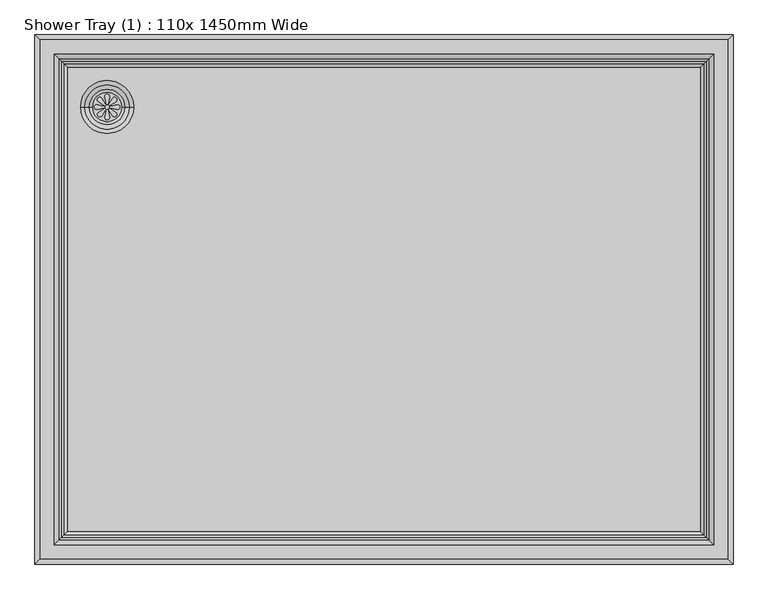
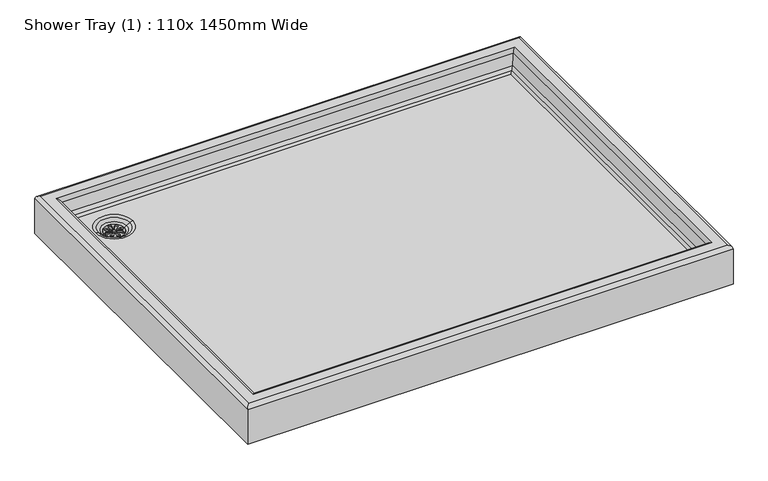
"""IFC4 building model written with IfcOpenShell, lengths in millimetres: flow terminal geometry, Shower Tray (1) : 110x 1450mm Wide."""

from ifc_helpers import new_model, si_unit, point, frame, frame_2d, origin, place, context, project, spatial, polyline, circle_curve, ellipse_curve, trimmed, segment, composite_curve, outline, extrude, source, transform, mapped, element, save
from ifc_brep_helpers import plane_surface, cylinder_surface, revolved_surface, advanced_brep


def shower_tray_1_110x_1450mm_wide_fd7da13c(model_context):
    return source(origin(), model_context, "Body", "SolidModel", [
        extrude(outline(composite_curve([segment(trimmed(circle_curve(frame_2d((-575.0, 400.0)), 30.0), [point((-605.0, 400.0))], [point((-545.0, 400.0))], False, "CARTESIAN"), True, "CONTINUOUS"), segment(trimmed(circle_curve(frame_2d((-575.0, 400.0)), 30.0), [point((-545.0, 400.0))], [point((-605.0, 400.0))], False, "CARTESIAN"), True, "CONTINUOUS")], self_intersect=False), holes=[composite_curve([segment(polyline([(-573.0437984, 407.2242832), (-570.0173347, 421.5301417)]), True, "CONTINUOUS"), segment(trimmed(circle_curve(frame_2d((-575.0, 421.5301417)), 4.9826653), [point((-570.0173347, 421.5301417))], [point((-579.9826653, 421.5301417))], True, "CARTESIAN"), True, "CONTINUOUS"), segment(polyline([(-579.9826653, 421.5301417), (-577.1435586, 407.2242832)]), True, "CONTINUOUS"), segment(trimmed(circle_curve(frame_2d((-575.0936785, 407.2242832)), 2.0498801), [point((-577.1435586, 407.2242832))], [point((-573.0437984, 407.2242832))], True, "CARTESIAN"), True, "CONTINUOUS")], self_intersect=False), composite_curve([segment(trimmed(circle_curve(frame_2d((-575.0936785, 392.7757168)), 2.0498801), [point((-573.0437984, 392.7757168))], [point((-577.1435586, 392.7757168))], True, "CARTESIAN"), True, "CONTINUOUS"), segment(polyline([(-577.1435586, 392.7757168), (-579.9826653, 378.4698583)]), True, "CONTINUOUS"), segment(trimmed(circle_curve(frame_2d((-575.0, 378.4698583)), 4.9826653), [point((-579.9826653, 378.4698583))], [point((-570.0173347, 378.4698583))], True, "CARTESIAN"), True, "CONTINUOUS"), segment(polyline([(-570.0173347, 378.4698583), (-573.0437984, 392.7757168)]), True, "CONTINUOUS")], self_intersect=False), composite_curve([segment(polyline([(-582.2242832, 401.9562016), (-596.5301417, 404.9826653)]), True, "CONTINUOUS"), segment(trimmed(circle_curve(frame_2d((-596.5301417, 400.0)), 4.9826653), [point((-596.5301417, 404.9826653))], [point((-596.5301417, 395.0173347))], True, "CARTESIAN"), True, "CONTINUOUS"), segment(polyline([(-596.5301417, 395.0173347), (-582.2242832, 397.8564414)]), True, "CONTINUOUS"), segment(trimmed(circle_curve(frame_2d((-582.2242832, 399.9063215)), 2.0498801), [point((-582.2242832, 397.8564414))], [point((-582.2242832, 401.9562016))], True, "CARTESIAN"), True, "CONTINUOUS")], self_intersect=False), composite_curve([segment(trimmed(circle_curve(frame_2d((-567.7757168, 399.9063215)), 2.0498801), [point((-567.7757168, 401.9562016))], [point((-567.7757168, 397.8564414))], True, "CARTESIAN"), True, "CONTINUOUS"), segment(polyline([(-567.7757168, 397.8564414), (-553.4698583, 395.0173347)]), True, "CONTINUOUS"), segment(trimmed(circle_curve(frame_2d((-553.4698583, 400.0)), 4.9826653), [point((-553.4698583, 395.0173347))], [point((-553.4698583, 404.9826653))], True, "CARTESIAN"), True, "CONTINUOUS"), segment(polyline([(-553.4698583, 404.9826653), (-567.7757168, 401.9562016)]), True, "CONTINUOUS")], self_intersect=False), composite_curve([segment(polyline([(-578.7250963, 406.4915831), (-586.7008327, 418.7473856)]), True, "CONTINUOUS"), segment(trimmed(circle_curve(frame_2d((-590.2241092, 415.2241092)), 4.9826653), [point((-586.7008327, 418.7473856))], [point((-593.7473856, 411.7008327))], True, "CARTESIAN"), True, "CONTINUOUS"), segment(polyline([(-593.7473856, 411.7008327), (-581.6240645, 403.5926149)]), True, "CONTINUOUS"), segment(trimmed(circle_curve(frame_2d((-580.1745804, 405.042099)), 2.0498801), [point((-581.6240645, 403.5926149))], [point((-578.7250963, 406.4915831))], True, "CARTESIAN"), True, "CONTINUOUS")], self_intersect=False), composite_curve([segment(trimmed(circle_curve(frame_2d((-569.957901, 394.8254196)), 2.0498801), [point((-568.5084169, 396.2749037))], [point((-571.4073851, 393.3759355))], True, "CARTESIAN"), True, "CONTINUOUS"), segment(polyline([(-571.4073851, 393.3759355), (-563.2991673, 381.2526144)]), True, "CONTINUOUS"), segment(trimmed(circle_curve(frame_2d((-559.7758908, 384.7758908)), 4.9826653), [point((-563.2991673, 381.2526144))], [point((-556.2526144, 388.2991673))], True, "CARTESIAN"), True, "CONTINUOUS"), segment(polyline([(-556.2526144, 388.2991673), (-568.5084169, 396.2749037)]), True, "CONTINUOUS")], self_intersect=False), composite_curve([segment(polyline([(-581.4915831, 396.2749037), (-593.7473856, 388.2991673)]), True, "CONTINUOUS"), segment(trimmed(circle_curve(frame_2d((-590.2241092, 384.7758908)), 4.9826653), [point((-593.7473856, 388.2991673))], [point((-586.7008327, 381.2526144))], True, "CARTESIAN"), True, "CONTINUOUS"), segment(polyline([(-586.7008327, 381.2526144), (-578.5926149, 393.3759355)]), True, "CONTINUOUS"), segment(trimmed(circle_curve(frame_2d((-580.042099, 394.8254196)), 2.0498801), [point((-578.5926149, 393.3759355))], [point((-581.4915831, 396.2749037))], True, "CARTESIAN"), True, "CONTINUOUS")], self_intersect=False), composite_curve([segment(trimmed(circle_curve(frame_2d((-569.8254196, 405.042099)), 2.0498801), [point((-571.2749037, 406.4915831))], [point((-568.3759355, 403.5926149))], True, "CARTESIAN"), True, "CONTINUOUS"), segment(polyline([(-568.3759355, 403.5926149), (-556.2526144, 411.7008327)]), True, "CONTINUOUS"), segment(trimmed(circle_curve(frame_2d((-559.7758908, 415.2241092)), 4.9826653), [point((-556.2526144, 411.7008327))], [point((-563.2991673, 418.7473856))], True, "CARTESIAN"), True, "CONTINUOUS"), segment(polyline([(-563.2991673, 418.7473856), (-571.2749037, 406.4915831)]), True, "CONTINUOUS")], self_intersect=False)]), frame((0.0, 0.0, 43.429774), z_axis=(0.0, 0.0, 1.0), x_axis=(1.0, 0.0, 0.0)), (0.0, 0.0, 1.0), 3.0),
        advanced_brep(
        [(725.0, 550.0, 0.0), (725.0, 550.0, 110.0), (725.0, -550.0, 110.0), (725.0, -550.0, 0.0), (663.5950747, 488.5950747, 66.1486916), (657.446383, 482.446383, 60.0), (657.446383, -482.446383, 60.0), (663.5950747, -488.5950747, 66.1486916), (669.1490941, -494.1490941, 76.8178637), (669.1490941, 494.1490941, 76.8178637), (675.0, -500.0, 110.0), (675.0, 500.0, 110.0), (685.0, -510.0, 120.0), (685.0, 510.0, 120.0), (715.0, 540.0, 120.0), (715.0, -540.0, 120.0), (-725.0, -550.0, 110.0), (-725.0, -550.0, 0.0), (-657.446383, -482.446383, 60.0), (-663.5950747, -488.5950747, 66.1486916), (-669.1490941, -494.1490941, 76.8178637), (-675.0, -500.0, 110.0), (-685.0, -510.0, 120.0), (-715.0, -540.0, 120.0), (-725.0, 550.0, 110.0), (-725.0, 550.0, 0.0), (-657.446383, 482.446383, 60.0), (-663.5950747, 488.5950747, 66.1486916), (-669.1490941, 494.1490941, 76.8178637), (-675.0, 500.0, 110.0), (-685.0, 510.0, 120.0), (-715.0, 540.0, 120.0), (-605.0, 400.0, 0.0), (-545.0, 400.0, 0.0), (-630.0, 400.0, 60.0), (-520.0, 400.0, 60.0), (-545.0, 400.0, 46.429774), (-605.0, 400.0, 46.429774), (-538.3333333, 400.0, 50.0), (-611.6666667, 400.0, 50.0), (-529.0, 400.0, 57.0), (-621.0, 400.0, 57.0)],
        [
            (0, 1),
            (1, 2),
            (2, 3),
            (3, 0),
            (4, 5),
            (5, 6),
            (6, 7),
            (7, 4),
            (7, 8, ellipse_curve(frame((649.452939, -474.452939, 80.2908273), z_axis=(-0.7071067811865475, -0.7071067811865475, 0.0), x_axis=(0.7071067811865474, -0.7071067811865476, 0.0)), 28.2842712, 20.0)),
            (8, 9),
            (9, 4, ellipse_curve(frame((649.452939, 474.452939, 80.2908273), z_axis=(-0.7071067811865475, 0.7071067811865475, 0.0), x_axis=(-0.7071067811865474, -0.7071067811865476, 0.0)), 28.2842712, 20.0)),
            (8, 10),
            (10, 11),
            (11, 9),
            (10, 12, ellipse_curve(frame((685.0, -510.0, 110.0), z_axis=(0.7071067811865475, 0.7071067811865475, 0.0), x_axis=(-0.7071067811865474, 0.7071067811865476, 0.0)), 14.1421356, 10.0)),
            (12, 13),
            (13, 11, ellipse_curve(frame((685.0, 510.0, 110.0), z_axis=(0.7071067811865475, -0.7071067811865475, 0.0), x_axis=(0.7071067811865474, 0.7071067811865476, 0.0)), 14.1421356, 10.0)),
            (1, 14, ellipse_curve(frame((715.0, 540.0, 110.0), z_axis=(0.7071067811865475, -0.7071067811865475, 0.0), x_axis=(0.7071067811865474, 0.7071067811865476, 0.0)), 14.1421356, 10.0)),
            (14, 15),
            (15, 2, ellipse_curve(frame((715.0, -540.0, 110.0), z_axis=(0.7071067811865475, 0.7071067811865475, 0.0), x_axis=(-0.7071067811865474, 0.7071067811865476, 0.0)), 14.1421356, 10.0)),
            (2, 16),
            (16, 17),
            (17, 3),
            (6, 18),
            (18, 19),
            (19, 7),
            (19, 20, ellipse_curve(frame((-649.452939, -474.452939, 80.2908273), z_axis=(-0.7071067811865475, 0.7071067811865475, 0.0), x_axis=(-0.7071067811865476, -0.7071067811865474, 0.0)), 28.2842712, 20.0)),
            (20, 8),
            (20, 21),
            (21, 10),
            (21, 22, ellipse_curve(frame((-685.0, -510.0, 110.0), z_axis=(0.7071067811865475, -0.7071067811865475, 0.0), x_axis=(0.7071067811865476, 0.7071067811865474, 0.0)), 14.1421356, 10.0)),
            (22, 12),
            (15, 23),
            (23, 16, ellipse_curve(frame((-715.0, -540.0, 110.0), z_axis=(0.7071067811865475, -0.7071067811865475, 0.0), x_axis=(0.7071067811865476, 0.7071067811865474, 0.0)), 14.1421356, 10.0)),
            (16, 24),
            (24, 25),
            (25, 17),
            (18, 26),
            (26, 27),
            (27, 19),
            (27, 28, ellipse_curve(frame((-649.452939, 474.452939, 80.2908273), z_axis=(0.7071067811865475, 0.7071067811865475, 0.0), x_axis=(-0.7071067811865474, 0.7071067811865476, 0.0)), 28.2842712, 20.0)),
            (28, 20),
            (28, 29),
            (29, 21),
            (29, 30, ellipse_curve(frame((-685.0, 510.0, 110.0), z_axis=(-0.7071067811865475, -0.7071067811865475, 0.0), x_axis=(0.7071067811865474, -0.7071067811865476, 0.0)), 14.1421356, 10.0)),
            (30, 22),
            (23, 31),
            (31, 24, ellipse_curve(frame((-715.0, 540.0, 110.0), z_axis=(-0.7071067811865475, -0.7071067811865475, 0.0), x_axis=(0.7071067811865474, -0.7071067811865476, 0.0)), 14.1421356, 10.0)),
            (0, 25),
            (24, 1),
            (32, 33, circle_curve(frame((-575.0, 400.0, 0.0), z_axis=(0.0, 0.0, 1.0), x_axis=(1.0, 0.0, 0.0)), 30.0)),
            (33, 32, circle_curve(frame((-575.0, 400.0, 0.0), z_axis=(0.0, 0.0, 1.0), x_axis=(1.0, 0.0, 0.0)), 30.0)),
            (4, 27),
            (26, 5),
            (9, 28),
            (11, 29),
            (13, 30),
            (14, 31),
            (34, 35, circle_curve(frame((-575.0, 400.0, 60.0), z_axis=(0.0, 0.0, -1.0), x_axis=(1.0, 0.0, 0.0)), 55.0)),
            (35, 34, circle_curve(frame((-575.0, 400.0, 60.0), z_axis=(0.0, 0.0, -1.0), x_axis=(1.0, 0.0, 0.0)), 55.0)),
            (33, 36),
            (36, 37, circle_curve(frame((-575.0, 400.0, 46.429774), z_axis=(0.0, 0.0, 1.0), x_axis=(1.0, 0.0, 0.0)), 30.0)),
            (37, 32),
            (37, 36, circle_curve(frame((-575.0, 400.0, 46.429774), z_axis=(0.0, 0.0, 1.0), x_axis=(1.0, 0.0, 0.0)), 30.0)),
            (38, 39, circle_curve(frame((-575.0, 400.0, 50.0), z_axis=(0.0, 0.0, 1.0), x_axis=(1.0, 0.0, 0.0)), 36.6666667)),
            (39, 37, circle_curve(frame((-596.6666667, 400.0, 70.0), z_axis=(0.0, -1.0, 0.0), x_axis=(-1.0, 0.0, 0.0)), 25.0)),
            (36, 38, circle_curve(frame((-553.3333333, 400.0, 70.0), z_axis=(0.0, -1.0, 0.0), x_axis=(1.0, 0.0, 0.0)), 25.0)),
            (39, 38, circle_curve(frame((-575.0, 400.0, 50.0), z_axis=(0.0, 0.0, 1.0), x_axis=(1.0, 0.0, 0.0)), 36.6666667)),
            (38, 40),
            (40, 41, circle_curve(frame((-575.0, 400.0, 57.0), z_axis=(0.0, 0.0, 1.0), x_axis=(1.0, 0.0, 0.0)), 46.0)),
            (41, 39),
            (41, 40, circle_curve(frame((-575.0, 400.0, 57.0), z_axis=(0.0, 0.0, 1.0), x_axis=(1.0, 0.0, 0.0)), 46.0)),
            (40, 35, circle_curve(frame((-520.0, 400.0, 45.0), z_axis=(0.0, 1.0, 0.0), x_axis=(1.0, 0.0, 0.0)), 15.0)),
            (34, 41, circle_curve(frame((-630.0, 400.0, 45.0), z_axis=(0.0, 1.0, 0.0), x_axis=(-1.0, 0.0, 0.0)), 15.0)),
        ],
        [
            plane_surface(frame((725.0, 550.0, 110.0), z_axis=(1.0, 0.0, 0.0), x_axis=(0.0, -1.0, 0.0))),
            plane_surface(frame((657.446383, 482.446383, 60.0), z_axis=(-0.7071067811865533, 0.0, 0.7071067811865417), x_axis=(0.0, -1.0, 0.0))),
            revolved_surface(polyline([(669.452939, -494.45293896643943, 80.2908273), (669.452939, 494.4529389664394, 80.2908273)]), (649.452939, 550.0, 80.2908273), (0.0, -1.0, 0.0)),
            plane_surface(frame((669.1490941, 494.1490941, 76.8178637), z_axis=(-0.9848077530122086, 0.0, 0.17364817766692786), x_axis=(0.0, -1.0, 0.0))),
            cylinder_surface(frame((685.0, 550.0, 110.0), z_axis=(0.0, 1.0, 0.0), x_axis=(1.0, 0.0, 0.0)), 10.0),
            cylinder_surface(frame((715.0, 550.0, 110.0), z_axis=(0.0, 1.0, 0.0), x_axis=(1.0, 0.0, 0.0)), 10.0),
            plane_surface(frame((725.0, -550.0, 110.0), z_axis=(0.0, -1.0, 0.0), x_axis=(-1.0, 0.0, 0.0))),
            plane_surface(frame((657.446383, -482.446383, 60.0), z_axis=(0.0, 0.7071067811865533, 0.7071067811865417), x_axis=(-1.0, 0.0, 0.0))),
            revolved_surface(polyline([(-669.4529389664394, -494.452939, 80.2908273), (669.4529389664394, -494.452939, 80.2908273)]), (725.0, -474.452939, 80.2908273), (-1.0, 0.0, 0.0)),
            plane_surface(frame((669.1490941, -494.1490941, 76.8178637), z_axis=(0.0, 0.9848077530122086, 0.17364817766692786), x_axis=(-1.0, 0.0, 0.0))),
            cylinder_surface(frame((725.0, -510.0, 110.0), z_axis=(1.0, 0.0, 0.0), x_axis=(0.0, -1.0, 0.0)), 10.0),
            cylinder_surface(frame((725.0, -540.0, 110.0), z_axis=(1.0, 0.0, 0.0), x_axis=(0.0, -1.0, 0.0)), 10.0),
            plane_surface(frame((-725.0, -550.0, 110.0), z_axis=(-1.0, 0.0, 0.0), x_axis=(0.0, 1.0, 0.0))),
            plane_surface(frame((-657.446383, -482.446383, 60.0), z_axis=(0.7071067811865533, 0.0, 0.7071067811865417), x_axis=(0.0, 1.0, 0.0))),
            revolved_surface(polyline([(-669.452939, 494.45293896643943, 80.2908273), (-669.452939, -494.4529389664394, 80.2908273)]), (-649.452939, -550.0, 80.2908273), (0.0, 1.0, 0.0)),
            plane_surface(frame((-669.1490941, -494.1490941, 76.8178637), z_axis=(0.9848077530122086, 0.0, 0.17364817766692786), x_axis=(0.0, 1.0, 0.0))),
            cylinder_surface(frame((-685.0, -550.0, 110.0), z_axis=(0.0, -1.0, 0.0), x_axis=(-1.0, 0.0, 0.0)), 10.0),
            cylinder_surface(frame((-715.0, -550.0, 110.0), z_axis=(0.0, -1.0, 0.0), x_axis=(-1.0, 0.0, 0.0)), 10.0),
            plane_surface(frame((-725.0, 550.0, 110.0), z_axis=(0.0, 1.0, 0.0), x_axis=(1.0, 0.0, 0.0))),
            plane_surface(frame((-725.0, 550.0, 0.0), z_axis=(0.0, 0.0, -1.0), x_axis=(1.0, 0.0, 0.0))),
            plane_surface(frame((-657.446383, 482.446383, 60.0), z_axis=(0.0, -0.7071067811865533, 0.7071067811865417), x_axis=(1.0, 0.0, 0.0))),
            revolved_surface(polyline([(669.4529389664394, 494.452939, 80.2908273), (-669.4529389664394, 494.452939, 80.2908273)]), (-725.0, 474.452939, 80.2908273), (1.0, 0.0, 0.0)),
            plane_surface(frame((-669.1490941, 494.1490941, 76.8178637), z_axis=(0.0, -0.9848077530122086, 0.17364817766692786), x_axis=(1.0, 0.0, 0.0))),
            cylinder_surface(frame((-725.0, 510.0, 110.0), z_axis=(-1.0, 0.0, 0.0), x_axis=(0.0, 1.0, 0.0)), 10.0),
            plane_surface(frame((-685.0, 510.0, 120.0), z_axis=(0.0, 0.0, 1.0), x_axis=(1.0, 0.0, 0.0))),
            cylinder_surface(frame((-725.0, 540.0, 110.0), z_axis=(-1.0, 0.0, 0.0), x_axis=(0.0, 1.0, 0.0)), 10.0),
            plane_surface(frame((-545.0, 400.0, 60.0), z_axis=(0.0, 0.0, 1.0), x_axis=(0.0, -1.0, 0.0))),
            revolved_surface(polyline([(-545.0, 400.0, 0.0), (-545.0, 400.0, 46.429774)]), (-575.0, 400.0, 0.0), (0.0, 0.0, -1.0)),
            revolved_surface(trimmed(ellipse_curve(frame((-553.3333333, 400.0, 70.0), z_axis=(0.0, 1.0, 0.0), x_axis=(1.0, 0.0, 0.0)), 25.0, 25.0), [point((-538.3333333, 400.0, 50.0))], [point((-553.3333333, 400.0, 45.0))], True, "CARTESIAN"), (-575.0, 400.0, -508.0), (0.0, 0.0, 1.0)),
            revolved_surface(polyline([(-529.0, 400.0, 57.0), (-538.3333333, 400.0, 50.0)]), (-575.0, 400.0, -508.0), (0.0, 0.0, 1.0)),
            revolved_surface(trimmed(ellipse_curve(frame((-520.0, 400.0, 45.0), z_axis=(0.0, -1.0, 0.0), x_axis=(1.0, 0.0, 0.0)), 15.0, 15.0), [point((-520.0, 400.0, 60.0))], [point((-529.0, 400.0, 57.0))], True, "CARTESIAN"), (-575.0, 400.0, -508.0), (0.0, 0.0, 1.0)),
        ],
        [
            (0, [[1, 2, 3, 4]]),
            (1, [[5, 6, 7, 8]]),
            (2, [[-8, 9, 10, 11]]),
            (3, [[-10, 12, 13, 14]]),
            (4, [[-13, 15, 16, 17]]),
            (5, [[-2, 18, 19, 20]]),
            (6, [[-3, 21, 22, 23]]),
            (7, [[-7, 24, 25, 26]]),
            (8, [[-9, -26, 27, 28]]),
            (9, [[-12, -28, 29, 30]]),
            (10, [[-15, -30, 31, 32]]),
            (11, [[-20, 33, 34, -21]]),
            (12, [[-22, 35, 36, 37]]),
            (13, [[-25, 38, 39, 40]]),
            (14, [[-27, -40, 41, 42]]),
            (15, [[-29, -42, 43, 44]]),
            (16, [[-31, -44, 45, 46]]),
            (17, [[-34, 47, 48, -35]]),
            (18, [[-1, 49, -36, 50]]),
            (19, [[-4, -23, -37, -49], [51, 52]]),
            (20, [[-5, 53, -39, 54]]),
            (21, [[-11, 55, -41, -53]]),
            (22, [[-14, 56, -43, -55]]),
            (23, [[-17, 57, -45, -56]]),
            (24, [[-19, 58, -47, -33], [-16, -32, -46, -57]]),
            (25, [[-18, -50, -48, -58]]),
            (26, [[-6, -54, -38, -24], [59, 60]]),
            (27, [[-52, 61, 62, 63]]),
            (27, [[-51, -63, 64, -61]]),
            (28, [[65, 66, -62, 67]]),
            (28, [[68, -67, -64, -66]]),
            (29, [[-65, 69, 70, 71]]),
            (29, [[-68, -71, 72, -69]]),
            (30, [[-70, 73, -59, 74]]),
            (30, [[-72, -74, -60, -73]]),
        ],
    ),
        extrude(outline(composite_curve([segment(trimmed(circle_curve(frame_2d((-575.0, 400.0)), 30.0), [point((-605.0, 400.0))], [point((-545.0, 400.0))], False, "CARTESIAN"), True, "CONTINUOUS"), segment(trimmed(circle_curve(frame_2d((-575.0, 400.0)), 30.0), [point((-545.0, 400.0))], [point((-605.0, 400.0))], False, "CARTESIAN"), True, "CONTINUOUS")], self_intersect=False)), frame((0.0, 0.0, -4.6336899), z_axis=(0.0, 0.0, 1.0), x_axis=(1.0, 0.0, 0.0)), (0.0, 0.0, 1.0), 15.8627685),
    ])


if __name__ == "__main__":
    model = new_model("IFC4")
    model_context = context("Model", 3, world=origin())
    ifc_project = project(units=[si_unit("LENGTHUNIT", "METRE", prefix="MILLI")], contexts=[model_context])
    site = spatial("IfcSite", under=ifc_project)
    building = spatial("IfcBuilding", under=site)
    placement = place(None, origin())
    shower_tray_1_110x_1450mm_wide_shape = shower_tray_1_110x_1450mm_wide_fd7da13c(model_context)
    element("IfcFlowTerminal", 1, ObjectType="Shower Tray (1) : 110x 1450mm Wide", at=placement, inside=building, context=model_context, shape_type="MappedRepresentation", body=[
        mapped(shower_tray_1_110x_1450mm_wide_shape, transform((0.0, 0.0, 0.0), x_axis=(1.0, 0.0, 0.0), y_axis=(0.0, 1.0, 0.0), z_axis=(0.0, 0.0, 1.0))),
    ])
    save(model, "model.ifc")
